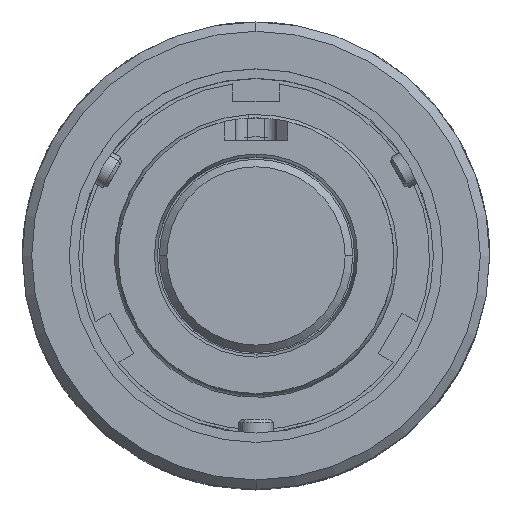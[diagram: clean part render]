
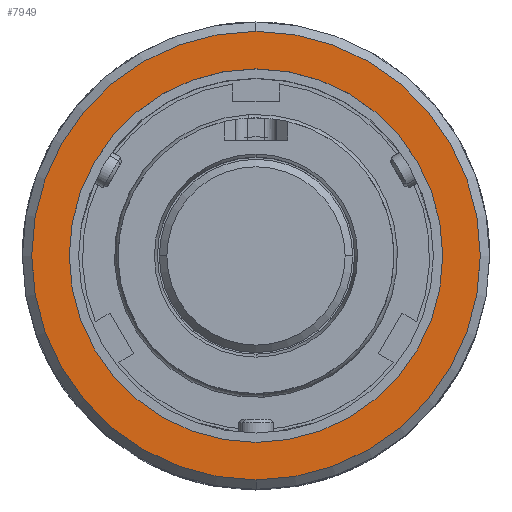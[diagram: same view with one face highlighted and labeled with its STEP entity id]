
A CAD part, top view. The second image highlights one B-rep face of the part: STEP entity #7949.
In plain terms, the highlighted planar face has unit normal (0, 0, 1).
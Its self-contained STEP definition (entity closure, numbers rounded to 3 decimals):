
#83 = DIRECTION ( 'NONE',  ( 0., 0., 1. ) ) ;
#100 = CARTESIAN_POINT ( 'NONE',  ( 0., 15.176, -0.813 ) ) ;
#279 = ORIENTED_EDGE ( 'NONE', *, *, #6094, .F. ) ;
#905 = FACE_BOUND ( 'NONE', #8365, .T. ) ;
#911 = ORIENTED_EDGE ( 'NONE', *, *, #3269, .F. ) ;
#985 = DIRECTION ( 'NONE',  ( 0., 1., 0. ) ) ;
#1160 = CARTESIAN_POINT ( 'NONE',  ( 0., -15.176, -0.813 ) ) ;
#1463 = CARTESIAN_POINT ( 'NONE',  ( 0., 15.176, -0.813 ) ) ;
#1830 = ORIENTED_EDGE ( 'NONE', *, *, #2537, .T. ) ;
#1836 = DIRECTION ( 'NONE',  ( 0., 0., -1. ) ) ;
#2286 = FACE_OUTER_BOUND ( 'NONE', #5552, .T. ) ;
#2355 = CARTESIAN_POINT ( 'NONE',  ( 0., 0., -0.813 ) ) ;
#2537 = EDGE_CURVE ( 'NONE', #8301, #9515, #5678, .T. ) ;
#2619 = CARTESIAN_POINT ( 'NONE',  ( 0., 0., -0.813 ) ) ;
#2760 = DIRECTION ( 'NONE',  ( 0., 0., -1. ) ) ;
#3198 = AXIS2_PLACEMENT_3D ( 'NONE', #3443, #1836, #7863 ) ;
#3269 = EDGE_CURVE ( 'NONE', #8886, #4014, #4263, .T. ) ;
#3303 = DIRECTION ( 'NONE',  ( 0., 0., -1. ) ) ;
#3312 = AXIS2_PLACEMENT_3D ( 'NONE', #2355, #8386, #985 ) ;
#3443 = CARTESIAN_POINT ( 'NONE',  ( 0., 0., -0.813 ) ) ;
#3765 = CIRCLE ( 'NONE', #7521, 15.176 ) ;
#4014 = VERTEX_POINT ( 'NONE', #100 ) ;
#4140 = CARTESIAN_POINT ( 'NONE',  ( 0., 0., -0.813 ) ) ;
#4263 = CIRCLE ( 'NONE', #3312, 15.176 ) ;
#4467 = CARTESIAN_POINT ( 'NONE',  ( 0., -12.636, -0.813 ) ) ;
#4814 = AXIS2_PLACEMENT_3D ( 'NONE', #1463, #83, #7436 ) ;
#5177 = PLANE ( 'NONE',  #4814 ) ;
#5552 = EDGE_LOOP ( 'NONE', ( #279, #911 ) ) ;
#5604 = DIRECTION ( 'NONE',  ( 0., 1., 0. ) ) ;
#5678 = CIRCLE ( 'NONE', #6777, 12.636 ) ;
#6094 = EDGE_CURVE ( 'NONE', #4014, #8886, #3765, .T. ) ;
#6294 = DIRECTION ( 'NONE',  ( 0., 1., 0. ) ) ;
#6777 = AXIS2_PLACEMENT_3D ( 'NONE', #2619, #2760, #5604 ) ;
#7269 = CIRCLE ( 'NONE', #3198, 12.636 ) ;
#7436 = DIRECTION ( 'NONE',  ( 0., -1., 0. ) ) ;
#7521 = AXIS2_PLACEMENT_3D ( 'NONE', #4140, #3303, #6294 ) ;
#7863 = DIRECTION ( 'NONE',  ( 0., 1., 0. ) ) ;
#7949 = ADVANCED_FACE ( 'NONE', ( #905, #2286 ), #5177, .T. ) ;
#8227 = ORIENTED_EDGE ( 'NONE', *, *, #9626, .T. ) ;
#8263 = CARTESIAN_POINT ( 'NONE',  ( 0., 12.637, -0.813 ) ) ;
#8301 = VERTEX_POINT ( 'NONE', #4467 ) ;
#8365 = EDGE_LOOP ( 'NONE', ( #8227, #1830 ) ) ;
#8386 = DIRECTION ( 'NONE',  ( 0., 0., -1. ) ) ;
#8886 = VERTEX_POINT ( 'NONE', #1160 ) ;
#9515 = VERTEX_POINT ( 'NONE', #8263 ) ;
#9626 = EDGE_CURVE ( 'NONE', #9515, #8301, #7269, .T. ) ;
